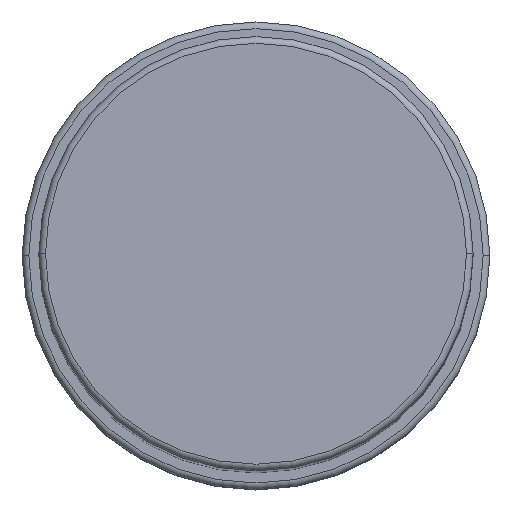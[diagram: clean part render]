
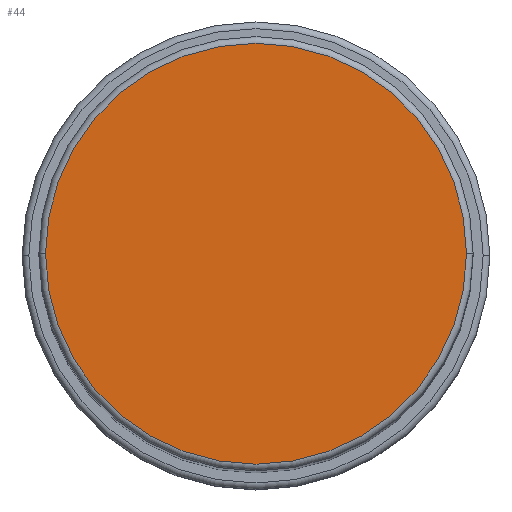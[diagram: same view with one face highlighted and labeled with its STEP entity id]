
A CAD part, top view. The second image highlights one B-rep face of the part: STEP entity #44.
In plain terms, the highlighted planar face has unit normal (0, 0, 1).
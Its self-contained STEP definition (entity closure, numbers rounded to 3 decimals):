
#27 = DIRECTION ( 'NONE',  ( 0., 0., 1. ) ) ;
#32 = AXIS2_PLACEMENT_3D ( 'NONE', #793, #27, #1173 ) ;
#44 = ADVANCED_FACE ( 'NONE', ( #1062 ), #964, .T. ) ;
#127 = CARTESIAN_POINT ( 'NONE',  ( -31.5, 0., 193. ) ) ;
#191 = ORIENTED_EDGE ( 'NONE', *, *, #946, .T. ) ;
#246 = AXIS2_PLACEMENT_3D ( 'NONE', #1107, #466, #714 ) ;
#375 = VERTEX_POINT ( 'NONE', #598 ) ;
#422 = CIRCLE ( 'NONE', #32, 31.5 ) ;
#466 = DIRECTION ( 'NONE',  ( 0., 0., 1. ) ) ;
#576 = DIRECTION ( 'NONE',  ( 1., 0., 0. ) ) ;
#598 = CARTESIAN_POINT ( 'NONE',  ( 31.5, 0., 193. ) ) ;
#714 = DIRECTION ( 'NONE',  ( 1., 0., 0. ) ) ;
#793 = CARTESIAN_POINT ( 'NONE',  ( 0., 0., 193. ) ) ;
#827 = DIRECTION ( 'NONE',  ( 0., 0., 1. ) ) ;
#939 = AXIS2_PLACEMENT_3D ( 'NONE', #1217, #827, #576 ) ;
#946 = EDGE_CURVE ( 'NONE', #1564, #375, #1297, .T. ) ;
#964 = PLANE ( 'NONE',  #939 ) ;
#1061 = EDGE_LOOP ( 'NONE', ( #1610, #191 ) ) ;
#1062 = FACE_OUTER_BOUND ( 'NONE', #1061, .T. ) ;
#1107 = CARTESIAN_POINT ( 'NONE',  ( 0., 0., 193. ) ) ;
#1173 = DIRECTION ( 'NONE',  ( 1., 0., 0. ) ) ;
#1217 = CARTESIAN_POINT ( 'NONE',  ( 0., 0., 193. ) ) ;
#1297 = CIRCLE ( 'NONE', #246, 31.5 ) ;
#1564 = VERTEX_POINT ( 'NONE', #127 ) ;
#1597 = EDGE_CURVE ( 'NONE', #375, #1564, #422, .T. ) ;
#1610 = ORIENTED_EDGE ( 'NONE', *, *, #1597, .T. ) ;
